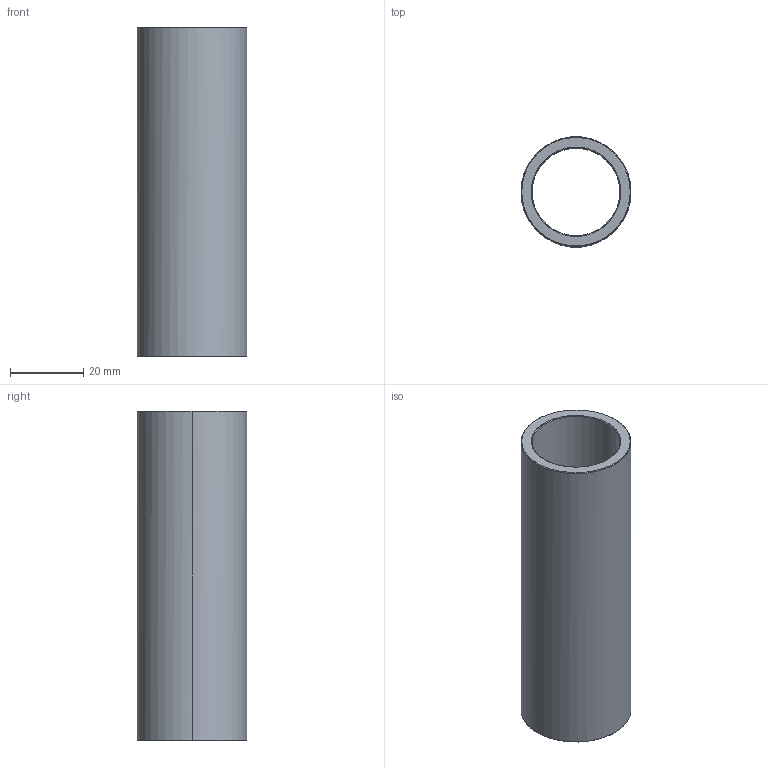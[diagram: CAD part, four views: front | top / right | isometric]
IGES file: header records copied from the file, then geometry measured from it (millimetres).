
Start section: Write IGES format                                    datakit 2008 (c)
Global section: file name: Unknown; native system: DATAKIT Converter; preprocessor: Unknown; author: Unknown; organization: Unknown; date: 950613.180003; units: millimetre
Bounding box: 30 x 29.92 x 90 mm (x, y, z)
Surface area: 15737.3 mm2 (no closed solid volume)
Topology: 0 solids, 0 shells, 14 faces, 56 edges, 56 vertices
Faces by surface type: revolution 12, bspline 2
